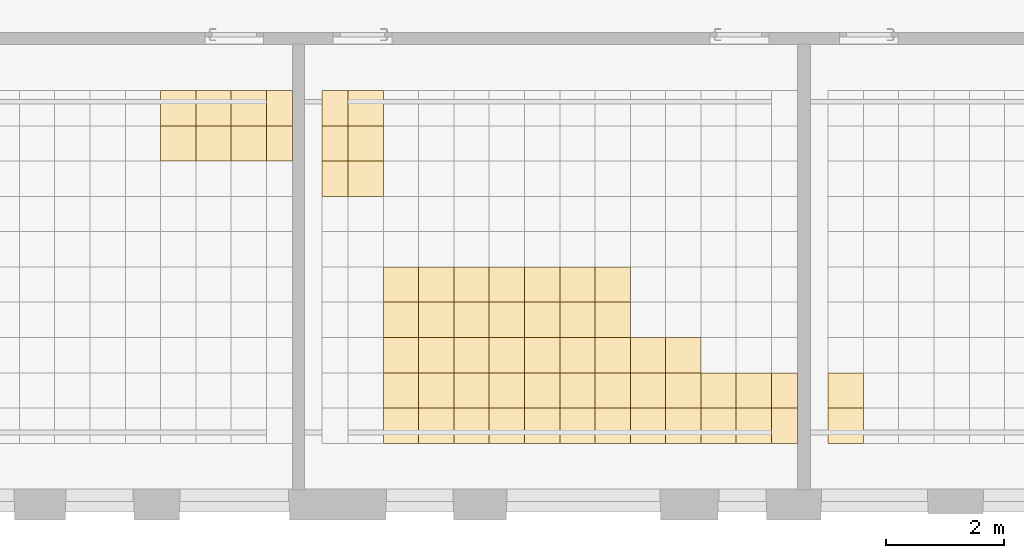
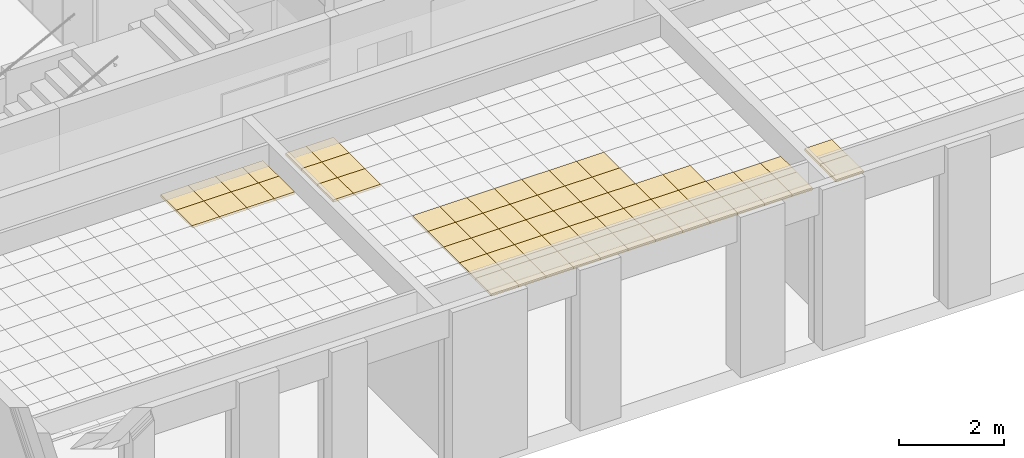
# One storey, part 66 of 79: 63 coverings.
"""IFC2X3 building model written with IfcOpenShell, lengths in millimetres."""

from ifc_helpers import new_model, entity, si_unit, converted_unit, derived_unit, money_unit, direction, frame, origin_with_axes, place, context, subcontext, project, spatial, faceted_brep, material, material_list, type_object, element, save


model = new_model("IFC2X3")

# Units and contexts
model_context = context("Model", 3, precision=0.01, world=origin_with_axes(), true_north=direction((0.0, 1.0)))
body_context = subcontext(model_context, "Body", "Model", "MODEL_VIEW")
ifc_project = project(units=[si_unit("LENGTHUNIT", "METRE", prefix="MILLI"), si_unit("AREAUNIT", "SQUARE_METRE"), si_unit("VOLUMEUNIT", "CUBIC_METRE"), converted_unit("PLANEANGLEUNIT", "DEGREE", entity("IfcPlaneAngleMeasure", 0.0174532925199), si_unit("PLANEANGLEUNIT", "RADIAN"), dimensions=[0, 0, 0, 0, 0, 0, 0]), si_unit("SOLIDANGLEUNIT", "STERADIAN"), money_unit("EUR"), converted_unit("TIMEUNIT", "Year", entity("IfcTimeMeasure", 31556926.0), si_unit("TIMEUNIT", "SECOND"), dimensions=[0, 0, 1, 0, 0, 0, 0]), si_unit("MASSUNIT", "GRAM", prefix="KILO"), si_unit("THERMODYNAMICTEMPERATUREUNIT", "DEGREE_CELSIUS"), si_unit("LUMINOUSINTENSITYUNIT", "LUMEN"), si_unit("ENERGYUNIT", "JOULE", prefix="MEGA"), derived_unit("THERMALCONDUCTANCEUNIT", [(si_unit("POWERUNIT", "WATT"), 1), (si_unit("LENGTHUNIT", "METRE"), -1), (si_unit("THERMODYNAMICTEMPERATUREUNIT", "KELVIN"), -1)]), derived_unit("SPECIFICHEATCAPACITYUNIT", [(si_unit("ENERGYUNIT", "JOULE"), 1), (si_unit("MASSUNIT", "GRAM", prefix="KILO"), -1), (si_unit("THERMODYNAMICTEMPERATUREUNIT", "KELVIN"), -1)]), derived_unit("MASSDENSITYUNIT", [(si_unit("MASSUNIT", "GRAM", prefix="KILO"), 1), (si_unit("VOLUMEUNIT", "CUBIC_METRE"), -1)])], contexts=[model_context])

# Site, building, storey
site_placement = place(None, origin_with_axes())
site = spatial("IfcSite", under=ifc_project, at=site_placement, Name="L.Koidula tn 11b", CompositionType="ELEMENT")
building_placement = place(site_placement, origin_with_axes())
building = spatial("IfcBuilding", under=site, at=building_placement, Name="Rakvere Riigigümnaasium", CompositionType="ELEMENT")
storey_placement = place(building_placement, frame((0.0, 0.0, 3720.0), z_axis=(0.0, 0.0, 1.0), x_axis=(1.0, 0.0, 0.0)))
storey = spatial("IfcBuildingStorey", under=building, at=storey_placement, Name="2.korrus +3,72", CompositionType="ELEMENT", Elevation=3720.0)

# Coverings
ifc_material_1 = material(Name="Karkass")
ifc_material_2 = material(Name="Kipsplaat")
ifc_material_list = material_list([ifc_material_1, ifc_material_2])
covering_type = type_object("IfcCoveringType", Name="SA-LV-Kips-moodul 55", PredefinedType="CEILING")
for number, where, z_axis, x_axis, name in (
    (1, (53009.6766386, 6890.45359412, 2750.0), (0.0, 0.0, 1.0), (1.0, 0.0, 0.0), "L-03"),
    (2, (53009.6766386, 6290.45359412, 2750.0), (0.0, 0.0, 1.0), (1.0, 0.0, 0.0), "L-03"),
):
    element("IfcCovering", number, at=place(storey_placement, frame(where, z_axis=z_axis, x_axis=x_axis)), inside=storey, type_object=covering_type, material=ifc_material_list, Name=name, PredefinedType="CEILING", context=body_context, shape_type="Brep", body=[
        faceted_brep([(600.000452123, 0.0, 12.5), (600.000452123, 0.0, 54.5), (0.0, 0.0, 54.5), (0.0, 0.0, 12.5), (600.000452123, 600.0, 12.5), (600.000452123, 600.0, 54.5), (0.0, 600.0, 54.5), (0.0, 600.0, 12.5)], [[[0, 1, 2, 3]], [[4, 5, 1, 0]], [[2, 1, 5, 6]], [[3, 2, 6, 7]], [[3, 7, 4, 0]], [[7, 6, 5, 4]]]),
        faceted_brep([(0.0, 0.0, 0.0), (600.000452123, 0.0, 0.0), (600.000452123, 0.0, 12.5), (0.0, 0.0, 12.5), (0.0, 600.0, 0.0), (600.000452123, 600.0, 0.0), (600.000452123, 600.0, 12.5), (0.0, 600.0, 12.5)], [[[0, 1, 2, 3]], [[0, 4, 5, 1]], [[1, 5, 6, 2]], [[3, 2, 6, 7]], [[4, 0, 3, 7]], [[5, 4, 7, 6]]]),
    ])
for number, where, z_axis, x_axis, name in (
    (3, (44844.8404937, 11690.4535941, 2750.0), (0.0, 0.0, 1.0), (1.0, 0.0, 0.0), "L-03"),
    (4, (44844.8404937, 10490.4535941, 2750.0), (0.0, 0.0, 1.0), (1.0, 0.0, 0.0), "L-03"),
    (5, (44844.8404937, 11090.4535941, 2750.0), (0.0, 0.0, 1.0), (1.0, 0.0, 0.0), "L-03"),
):
    element("IfcCovering", number, at=place(storey_placement, frame(where, z_axis=z_axis, x_axis=x_axis)), inside=storey, type_object=covering_type, material=ifc_material_list, Name=name, PredefinedType="CEILING", context=body_context, shape_type="Brep", body=[
        faceted_brep([(599.999948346, 0.0, 12.5), (599.999948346, 0.0, 54.5), (0.0, 0.0, 54.5), (0.0, 0.0, 12.5), (599.999948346, 600.0, 12.5), (599.999948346, 600.0, 54.5), (0.0, 600.0, 54.5), (0.0, 600.0, 12.5)], [[[0, 1, 2, 3]], [[4, 5, 1, 0]], [[2, 1, 5, 6]], [[3, 2, 6, 7]], [[3, 7, 4, 0]], [[7, 6, 5, 4]]]),
        faceted_brep([(0.0, 0.0, 0.0), (599.999948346, 0.0, 0.0), (599.999948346, 0.0, 12.5), (0.0, 0.0, 12.5), (0.0, 600.0, 0.0), (599.999948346, 600.0, 0.0), (599.999948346, 600.0, 12.5), (0.0, 600.0, 12.5)], [[[0, 1, 2, 3]], [[0, 4, 5, 1]], [[1, 5, 6, 2]], [[3, 2, 6, 7]], [[4, 0, 3, 7]], [[5, 4, 7, 6]]]),
    ])
for number, where, z_axis, x_axis, name in (
    (6, (44400.0000025, 11090.4535941, 2750.0), (0.0, 0.0, 1.0), (1.0, 0.0, 0.0), "L-03"),
    (7, (44400.0000025, 10490.4535941, 2750.0), (0.0, 0.0, 1.0), (1.0, 0.0, 0.0), "L-03"),
    (8, (44400.0000025, 11690.4535941, 2750.0), (0.0, 0.0, 1.0), (1.0, 0.0, 0.0), "L-03"),
):
    element("IfcCovering", number, at=place(storey_placement, frame(where, z_axis=z_axis, x_axis=x_axis)), inside=storey, type_object=covering_type, material=ifc_material_list, Name=name, PredefinedType="CEILING", context=body_context, shape_type="Brep", body=[
        faceted_brep([(444.84049122, 0.0, 12.5), (444.84049122, 0.0, 54.5), (0.0, 0.0, 54.5), (0.0, 0.0, 12.5), (444.84049122, 600.0, 12.5), (444.84049122, 600.0, 54.5), (0.0, 600.0, 54.5), (0.0, 600.0, 12.5)], [[[0, 1, 2, 3]], [[4, 5, 1, 0]], [[2, 1, 5, 6]], [[3, 2, 6, 7]], [[3, 7, 4, 0]], [[7, 6, 5, 4]]]),
        faceted_brep([(0.0, 0.0, 0.0), (444.84049122, 0.0, 0.0), (444.84049122, 0.0, 12.5), (0.0, 0.0, 12.5), (0.0, 600.0, 0.0), (444.84049122, 600.0, 0.0), (444.84049122, 600.0, 12.5), (0.0, 600.0, 12.5)], [[[0, 1, 2, 3]], [[0, 4, 5, 1]], [[1, 5, 6, 2]], [[3, 2, 6, 7]], [[4, 0, 3, 7]], [[5, 4, 7, 6]]]),
    ])
for number, where, z_axis, x_axis, name in (
    (9, (49044.8402871, 8090.45359412, 2750.0), (0.0, 0.0, 1.0), (1.0, 0.0, 0.0), "L-03"),
    (10, (50244.8402354, 7490.45359412, 2750.0), (0.0, 0.0, 1.0), (1.0, 0.0, 0.0), "L-03"),
):
    element("IfcCovering", number, at=place(storey_placement, frame(where, z_axis=z_axis, x_axis=x_axis)), inside=storey, type_object=covering_type, material=ifc_material_list, Name=name, PredefinedType="CEILING", context=body_context, shape_type="Brep", body=[
        faceted_brep([(600.0, 0.0, 12.5), (600.0, 0.0, 54.5), (0.0, 0.0, 54.5), (0.0, 0.0, 12.5), (600.0, 600.0, 12.5), (600.0, 600.0, 54.5), (0.0, 600.0, 54.5), (0.0, 600.0, 12.5)], [[[0, 1, 2, 3]], [[4, 5, 1, 0]], [[2, 1, 5, 6]], [[3, 2, 6, 7]], [[3, 7, 4, 0]], [[7, 6, 5, 4]]]),
        faceted_brep([(0.0, 0.0, 0.0), (600.0, 0.0, 0.0), (600.0, 0.0, 12.5), (0.0, 0.0, 12.5), (0.0, 600.0, 0.0), (600.0, 600.0, 0.0), (600.0, 600.0, 12.5), (0.0, 600.0, 12.5)], [[[0, 1, 2, 3]], [[0, 4, 5, 1]], [[1, 5, 6, 2]], [[3, 2, 6, 7]], [[4, 0, 3, 7]], [[5, 4, 7, 6]]]),
    ])
for number, where, z_axis, x_axis, name in (
    (11, (50844.8402354, 6890.45359412, 2750.0), (0.0, 0.0, 1.0), (1.0, 0.0, 0.0), "L-03"),
    (12, (50844.8402354, 6290.45359412, 2750.0), (0.0, 0.0, 1.0), (1.0, 0.0, 0.0), "L-03"),
):
    element("IfcCovering", number, at=place(storey_placement, frame(where, z_axis=z_axis, x_axis=x_axis)), inside=storey, type_object=covering_type, material=ifc_material_list, Name=name, PredefinedType="CEILING", context=body_context, shape_type="Brep", body=[
        faceted_brep([(599.999948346, 0.0, 12.5), (599.999948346, 0.0, 54.5), (0.0, 0.0, 54.5), (0.0, 0.0, 12.5), (599.999948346, 600.0, 12.5), (599.999948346, 600.0, 54.5), (0.0, 600.0, 54.5), (0.0, 600.0, 12.5)], [[[0, 1, 2, 3]], [[4, 5, 1, 0]], [[2, 1, 5, 6]], [[3, 2, 6, 7]], [[3, 7, 4, 0]], [[7, 6, 5, 4]]]),
        faceted_brep([(0.0, 0.0, 0.0), (599.999948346, 0.0, 0.0), (599.999948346, 0.0, 12.5), (0.0, 0.0, 12.5), (0.0, 600.0, 0.0), (599.999948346, 600.0, 0.0), (599.999948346, 600.0, 12.5), (0.0, 600.0, 12.5)], [[[0, 1, 2, 3]], [[0, 4, 5, 1]], [[1, 5, 6, 2]], [[3, 2, 6, 7]], [[4, 0, 3, 7]], [[5, 4, 7, 6]]]),
    ])
for number, where, z_axis, x_axis, name in (
    (13, (51444.8401838, 6290.45359412, 2750.0), (0.0, 0.0, 1.0), (1.0, 0.0, 0.0), "L-03"),
    (14, (51444.8401838, 6890.45359412, 2750.0), (0.0, 0.0, 1.0), (1.0, 0.0, 0.0), "L-03"),
    (15, (50244.8402354, 6290.45359412, 2750.0), (0.0, 0.0, 1.0), (1.0, 0.0, 0.0), "L-03"),
    (16, (49044.8402871, 8690.45359412, 2750.0), (0.0, 0.0, 1.0), (1.0, 0.0, 0.0), "L-03"),
    (17, (50244.8402354, 6890.45359412, 2750.0), (0.0, 0.0, 1.0), (1.0, 0.0, 0.0), "L-03"),
    (18, (49044.8402871, 6290.45359412, 2750.0), (0.0, 0.0, 1.0), (1.0, 0.0, 0.0), "L-03"),
    (19, (49044.8402871, 6890.45359412, 2750.0), (0.0, 0.0, 1.0), (1.0, 0.0, 0.0), "L-03"),
):
    element("IfcCovering", number, at=place(storey_placement, frame(where, z_axis=z_axis, x_axis=x_axis)), inside=storey, type_object=covering_type, material=ifc_material_list, Name=name, PredefinedType="CEILING", context=body_context, shape_type="Brep", body=[
        faceted_brep([(600.0, 0.0, 12.5), (600.0, 0.0, 54.5), (0.0, 0.0, 54.5), (0.0, 0.0, 12.5), (600.0, 600.0, 12.5), (600.0, 600.0, 54.5), (0.0, 600.0, 54.5), (0.0, 600.0, 12.5)], [[[0, 1, 2, 3]], [[4, 5, 1, 0]], [[2, 1, 5, 6]], [[3, 2, 6, 7]], [[3, 7, 4, 0]], [[7, 6, 5, 4]]]),
        faceted_brep([(0.0, 0.0, 0.0), (600.0, 0.0, 0.0), (600.0, 0.0, 12.5), (0.0, 0.0, 12.5), (0.0, 600.0, 0.0), (600.0, 600.0, 0.0), (600.0, 600.0, 12.5), (0.0, 600.0, 12.5)], [[[0, 1, 2, 3]], [[0, 4, 5, 1]], [[1, 5, 6, 2]], [[3, 2, 6, 7]], [[4, 0, 3, 7]], [[5, 4, 7, 6]]]),
    ])
for number, where, z_axis, x_axis, name in (
    (20, (47244.8403904, 6290.45359412, 2750.0), (0.0, 0.0, 1.0), (1.0, 0.0, 0.0), "L-03"),
    (21, (49644.8402871, 6290.45359412, 2750.0), (0.0, 0.0, 1.0), (1.0, 0.0, 0.0), "L-03"),
    (22, (47244.8403904, 7490.45359412, 2750.0), (0.0, 0.0, 1.0), (1.0, 0.0, 0.0), "L-03"),
    (23, (47244.8403904, 8090.45359412, 2750.0), (0.0, 0.0, 1.0), (1.0, 0.0, 0.0), "L-03"),
    (24, (49644.8402871, 7490.45359412, 2750.0), (0.0, 0.0, 1.0), (1.0, 0.0, 0.0), "L-03"),
    (25, (47244.8403904, 8690.45359412, 2750.0), (0.0, 0.0, 1.0), (1.0, 0.0, 0.0), "L-03"),
):
    element("IfcCovering", number, at=place(storey_placement, frame(where, z_axis=z_axis, x_axis=x_axis)), inside=storey, type_object=covering_type, material=ifc_material_list, Name=name, PredefinedType="CEILING", context=body_context, shape_type="Brep", body=[
        faceted_brep([(599.999948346, 0.0, 12.5), (599.999948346, 0.0, 54.5), (0.0, 0.0, 54.5), (0.0, 0.0, 12.5), (599.999948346, 600.0, 12.5), (599.999948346, 600.0, 54.5), (0.0, 600.0, 54.5), (0.0, 600.0, 12.5)], [[[0, 1, 2, 3]], [[4, 5, 1, 0]], [[2, 1, 5, 6]], [[3, 2, 6, 7]], [[3, 7, 4, 0]], [[7, 6, 5, 4]]]),
        faceted_brep([(0.0, 0.0, 0.0), (599.999948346, 0.0, 0.0), (599.999948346, 0.0, 12.5), (0.0, 0.0, 12.5), (0.0, 600.0, 0.0), (599.999948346, 600.0, 0.0), (599.999948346, 600.0, 12.5), (0.0, 600.0, 12.5)], [[[0, 1, 2, 3]], [[0, 4, 5, 1]], [[1, 5, 6, 2]], [[3, 2, 6, 7]], [[4, 0, 3, 7]], [[5, 4, 7, 6]]]),
    ])
for number, where, z_axis, x_axis, name in (
    (26, (45444.8404421, 6290.45359412, 2750.0), (0.0, 0.0, 1.0), (1.0, 0.0, 0.0), "L-03"),
    (27, (45444.8404421, 6890.45359412, 2750.0), (0.0, 0.0, 1.0), (1.0, 0.0, 0.0), "L-03"),
    (28, (47844.8403387, 6890.45359412, 2750.0), (0.0, 0.0, 1.0), (1.0, 0.0, 0.0), "L-03"),
):
    element("IfcCovering", number, at=place(storey_placement, frame(where, z_axis=z_axis, x_axis=x_axis)), inside=storey, type_object=covering_type, material=ifc_material_list, Name=name, PredefinedType="CEILING", context=body_context, shape_type="Brep", body=[
        faceted_brep([(600.0, 0.0, 12.5), (600.0, 0.0, 54.5), (0.0, 0.0, 54.5), (0.0, 0.0, 12.5), (600.0, 600.0, 12.5), (600.0, 600.0, 54.5), (0.0, 600.0, 54.5), (0.0, 600.0, 12.5)], [[[0, 1, 2, 3]], [[4, 5, 1, 0]], [[2, 1, 5, 6]], [[3, 2, 6, 7]], [[3, 7, 4, 0]], [[7, 6, 5, 4]]]),
        faceted_brep([(0.0, 0.0, 0.0), (600.0, 0.0, 0.0), (600.0, 0.0, 12.5), (0.0, 0.0, 12.5), (0.0, 600.0, 0.0), (600.0, 600.0, 0.0), (600.0, 600.0, 12.5), (0.0, 600.0, 12.5)], [[[0, 1, 2, 3]], [[0, 4, 5, 1]], [[1, 5, 6, 2]], [[3, 2, 6, 7]], [[4, 0, 3, 7]], [[5, 4, 7, 6]]]),
    ])
covering_1_placement = place(storey_placement, frame((46044.8404421, 8690.45359412, 2750.0), z_axis=(0.0, 0.0, 1.0), x_axis=(1.0, 0.0, 0.0)))
element("IfcCovering", 29, at=covering_1_placement, inside=storey, type_object=covering_type, material=ifc_material_list, Name="L-03", PredefinedType="CEILING", context=body_context, shape_type="Brep", body=[
    faceted_brep([(599.999948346, 0.0, 12.5), (599.999948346, 0.0, 54.5), (0.0, 0.0, 54.5), (0.0, 0.0, 12.5), (599.999948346, 600.0, 12.5), (599.999948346, 600.0, 54.5), (0.0, 600.0, 54.5), (0.0, 600.0, 12.5)], [[[0, 1, 2, 3]], [[4, 5, 1, 0]], [[2, 1, 5, 6]], [[3, 2, 6, 7]], [[3, 7, 4, 0]], [[7, 6, 5, 4]]]),
    faceted_brep([(0.0, 0.0, 0.0), (599.999948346, 0.0, 0.0), (599.999948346, 0.0, 12.5), (0.0, 0.0, 12.5), (0.0, 600.0, 0.0), (599.999948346, 600.0, 0.0), (599.999948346, 600.0, 12.5), (0.0, 600.0, 12.5)], [[[0, 1, 2, 3]], [[0, 4, 5, 1]], [[1, 5, 6, 2]], [[3, 2, 6, 7]], [[4, 0, 3, 7]], [[5, 4, 7, 6]]]),
])
for number, where, z_axis, x_axis, name in (
    (30, (47844.8403387, 6290.45359412, 2750.0), (0.0, 0.0, 1.0), (1.0, 0.0, 0.0), "L-03"),
    (31, (46644.8403904, 8090.45359412, 2750.0), (0.0, 0.0, 1.0), (1.0, 0.0, 0.0), "L-03"),
    (32, (46644.8403904, 7490.45359412, 2750.0), (0.0, 0.0, 1.0), (1.0, 0.0, 0.0), "L-03"),
):
    element("IfcCovering", number, at=place(storey_placement, frame(where, z_axis=z_axis, x_axis=x_axis)), inside=storey, type_object=covering_type, material=ifc_material_list, Name=name, PredefinedType="CEILING", context=body_context, shape_type="Brep", body=[
        faceted_brep([(600.0, 0.0, 12.5), (600.0, 0.0, 54.5), (0.0, 0.0, 54.5), (0.0, 0.0, 12.5), (600.0, 600.0, 12.5), (600.0, 600.0, 54.5), (0.0, 600.0, 54.5), (0.0, 600.0, 12.5)], [[[0, 1, 2, 3]], [[4, 5, 1, 0]], [[2, 1, 5, 6]], [[3, 2, 6, 7]], [[3, 7, 4, 0]], [[7, 6, 5, 4]]]),
        faceted_brep([(0.0, 0.0, 0.0), (600.0, 0.0, 0.0), (600.0, 0.0, 12.5), (0.0, 0.0, 12.5), (0.0, 600.0, 0.0), (600.0, 600.0, 0.0), (600.0, 600.0, 12.5), (0.0, 600.0, 12.5)], [[[0, 1, 2, 3]], [[0, 4, 5, 1]], [[1, 5, 6, 2]], [[3, 2, 6, 7]], [[4, 0, 3, 7]], [[5, 4, 7, 6]]]),
    ])
for number, where, z_axis, x_axis, name in (
    (33, (47244.8403904, 6890.45359412, 2750.0), (0.0, 0.0, 1.0), (1.0, 0.0, 0.0), "L-03"),
    (34, (46044.8404421, 8090.45359412, 2750.0), (0.0, 0.0, 1.0), (1.0, 0.0, 0.0), "L-03"),
):
    element("IfcCovering", number, at=place(storey_placement, frame(where, z_axis=z_axis, x_axis=x_axis)), inside=storey, type_object=covering_type, material=ifc_material_list, Name=name, PredefinedType="CEILING", context=body_context, shape_type="Brep", body=[
        faceted_brep([(599.999948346, 0.0, 12.5), (599.999948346, 0.0, 54.5), (0.0, 0.0, 54.5), (0.0, 0.0, 12.5), (599.999948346, 600.0, 12.5), (599.999948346, 600.0, 54.5), (0.0, 600.0, 54.5), (0.0, 600.0, 12.5)], [[[0, 1, 2, 3]], [[4, 5, 1, 0]], [[2, 1, 5, 6]], [[3, 2, 6, 7]], [[3, 7, 4, 0]], [[7, 6, 5, 4]]]),
        faceted_brep([(0.0, 0.0, 0.0), (599.999948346, 0.0, 0.0), (599.999948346, 0.0, 12.5), (0.0, 0.0, 12.5), (0.0, 600.0, 0.0), (599.999948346, 600.0, 0.0), (599.999948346, 600.0, 12.5), (0.0, 600.0, 12.5)], [[[0, 1, 2, 3]], [[0, 4, 5, 1]], [[1, 5, 6, 2]], [[3, 2, 6, 7]], [[4, 0, 3, 7]], [[5, 4, 7, 6]]]),
    ])
for number, where, z_axis, x_axis, name in (
    (35, (46644.8403904, 6290.45359412, 2750.0), (0.0, 0.0, 1.0), (1.0, 0.0, 0.0), "L-03"),
    (36, (47844.8403387, 8690.45359412, 2750.0), (0.0, 0.0, 1.0), (1.0, 0.0, 0.0), "L-03"),
    (37, (47844.8403387, 8090.45359412, 2750.0), (0.0, 0.0, 1.0), (1.0, 0.0, 0.0), "L-03"),
):
    element("IfcCovering", number, at=place(storey_placement, frame(where, z_axis=z_axis, x_axis=x_axis)), inside=storey, type_object=covering_type, material=ifc_material_list, Name=name, PredefinedType="CEILING", context=body_context, shape_type="Brep", body=[
        faceted_brep([(600.0, 0.0, 12.5), (600.0, 0.0, 54.5), (0.0, 0.0, 54.5), (0.0, 0.0, 12.5), (600.0, 600.0, 12.5), (600.0, 600.0, 54.5), (0.0, 600.0, 54.5), (0.0, 600.0, 12.5)], [[[0, 1, 2, 3]], [[4, 5, 1, 0]], [[2, 1, 5, 6]], [[3, 2, 6, 7]], [[3, 7, 4, 0]], [[7, 6, 5, 4]]]),
        faceted_brep([(0.0, 0.0, 0.0), (600.0, 0.0, 0.0), (600.0, 0.0, 12.5), (0.0, 0.0, 12.5), (0.0, 600.0, 0.0), (600.0, 600.0, 0.0), (600.0, 600.0, 12.5), (0.0, 600.0, 12.5)], [[[0, 1, 2, 3]], [[0, 4, 5, 1]], [[1, 5, 6, 2]], [[3, 2, 6, 7]], [[4, 0, 3, 7]], [[5, 4, 7, 6]]]),
    ])
covering_2_placement = place(storey_placement, frame((49644.8402871, 6890.45359412, 2750.0), z_axis=(0.0, 0.0, 1.0), x_axis=(1.0, 0.0, 0.0)))
element("IfcCovering", 38, at=covering_2_placement, inside=storey, type_object=covering_type, material=ifc_material_list, Name="L-03", PredefinedType="CEILING", context=body_context, shape_type="Brep", body=[
    faceted_brep([(599.999948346, 0.0, 12.5), (599.999948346, 0.0, 54.5), (0.0, 0.0, 54.5), (0.0, 0.0, 12.5), (599.999948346, 600.0, 12.5), (599.999948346, 600.0, 54.5), (0.0, 600.0, 54.5), (0.0, 600.0, 12.5)], [[[0, 1, 2, 3]], [[4, 5, 1, 0]], [[2, 1, 5, 6]], [[3, 2, 6, 7]], [[3, 7, 4, 0]], [[7, 6, 5, 4]]]),
    faceted_brep([(0.0, 0.0, 0.0), (599.999948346, 0.0, 0.0), (599.999948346, 0.0, 12.5), (0.0, 0.0, 12.5), (0.0, 600.0, 0.0), (599.999948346, 600.0, 0.0), (599.999948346, 600.0, 12.5), (0.0, 600.0, 12.5)], [[[0, 1, 2, 3]], [[0, 4, 5, 1]], [[1, 5, 6, 2]], [[3, 2, 6, 7]], [[4, 0, 3, 7]], [[5, 4, 7, 6]]]),
])
covering_3_placement = place(storey_placement, frame((47844.8403387, 7490.45359412, 2750.0), z_axis=(0.0, 0.0, 1.0), x_axis=(1.0, 0.0, 0.0)))
element("IfcCovering", 39, at=covering_3_placement, inside=storey, type_object=covering_type, material=ifc_material_list, Name="L-03", PredefinedType="CEILING", context=body_context, shape_type="Brep", body=[
    faceted_brep([(600.0, 0.0, 12.5), (600.0, 0.0, 54.5), (0.0, 0.0, 54.5), (0.0, 0.0, 12.5), (600.0, 600.0, 12.5), (600.0, 600.0, 54.5), (0.0, 600.0, 54.5), (0.0, 600.0, 12.5)], [[[0, 1, 2, 3]], [[4, 5, 1, 0]], [[2, 1, 5, 6]], [[3, 2, 6, 7]], [[3, 7, 4, 0]], [[7, 6, 5, 4]]]),
    faceted_brep([(0.0, 0.0, 0.0), (600.0, 0.0, 0.0), (600.0, 0.0, 12.5), (0.0, 0.0, 12.5), (0.0, 600.0, 0.0), (600.0, 600.0, 0.0), (600.0, 600.0, 12.5), (0.0, 600.0, 12.5)], [[[0, 1, 2, 3]], [[0, 4, 5, 1]], [[1, 5, 6, 2]], [[3, 2, 6, 7]], [[4, 0, 3, 7]], [[5, 4, 7, 6]]]),
])
for number, where, z_axis, x_axis, name in (
    (40, (48444.8403387, 6890.45359412, 2750.0), (0.0, 0.0, 1.0), (1.0, 0.0, 0.0), "L-03"),
    (41, (48444.8403387, 6290.45359412, 2750.0), (0.0, 0.0, 1.0), (1.0, 0.0, 0.0), "L-03"),
):
    element("IfcCovering", number, at=place(storey_placement, frame(where, z_axis=z_axis, x_axis=x_axis)), inside=storey, type_object=covering_type, material=ifc_material_list, Name=name, PredefinedType="CEILING", context=body_context, shape_type="Brep", body=[
        faceted_brep([(599.999948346, 0.0, 12.5), (599.999948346, 0.0, 54.5), (0.0, 0.0, 54.5), (0.0, 0.0, 12.5), (599.999948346, 600.0, 12.5), (599.999948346, 600.0, 54.5), (0.0, 600.0, 54.5), (0.0, 600.0, 12.5)], [[[0, 1, 2, 3]], [[4, 5, 1, 0]], [[2, 1, 5, 6]], [[3, 2, 6, 7]], [[3, 7, 4, 0]], [[7, 6, 5, 4]]]),
        faceted_brep([(0.0, 0.0, 0.0), (599.999948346, 0.0, 0.0), (599.999948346, 0.0, 12.5), (0.0, 0.0, 12.5), (0.0, 600.0, 0.0), (599.999948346, 600.0, 0.0), (599.999948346, 600.0, 12.5), (0.0, 600.0, 12.5)], [[[0, 1, 2, 3]], [[0, 4, 5, 1]], [[1, 5, 6, 2]], [[3, 2, 6, 7]], [[4, 0, 3, 7]], [[5, 4, 7, 6]]]),
    ])
for number, where, z_axis, x_axis, name in (
    (42, (46644.8403904, 6890.45359412, 2750.0), (0.0, 0.0, 1.0), (1.0, 0.0, 0.0), "L-03"),
    (43, (46644.8403904, 8690.45359412, 2750.0), (0.0, 0.0, 1.0), (1.0, 0.0, 0.0), "L-03"),
    (44, (49044.8402871, 7490.45359412, 2750.0), (0.0, 0.0, 1.0), (1.0, 0.0, 0.0), "L-03"),
):
    element("IfcCovering", number, at=place(storey_placement, frame(where, z_axis=z_axis, x_axis=x_axis)), inside=storey, type_object=covering_type, material=ifc_material_list, Name=name, PredefinedType="CEILING", context=body_context, shape_type="Brep", body=[
        faceted_brep([(600.0, 0.0, 12.5), (600.0, 0.0, 54.5), (0.0, 0.0, 54.5), (0.0, 0.0, 12.5), (600.0, 600.0, 12.5), (600.0, 600.0, 54.5), (0.0, 600.0, 54.5), (0.0, 600.0, 12.5)], [[[0, 1, 2, 3]], [[4, 5, 1, 0]], [[2, 1, 5, 6]], [[3, 2, 6, 7]], [[3, 7, 4, 0]], [[7, 6, 5, 4]]]),
        faceted_brep([(0.0, 0.0, 0.0), (600.0, 0.0, 0.0), (600.0, 0.0, 12.5), (0.0, 0.0, 12.5), (0.0, 600.0, 0.0), (600.0, 600.0, 0.0), (600.0, 600.0, 12.5), (0.0, 600.0, 12.5)], [[[0, 1, 2, 3]], [[0, 4, 5, 1]], [[1, 5, 6, 2]], [[3, 2, 6, 7]], [[4, 0, 3, 7]], [[5, 4, 7, 6]]]),
    ])
for number, where, z_axis, x_axis, name in (
    (45, (48444.8403387, 8090.45359412, 2750.0), (0.0, 0.0, 1.0), (1.0, 0.0, 0.0), "L-03"),
    (46, (46044.8404421, 6890.45359412, 2750.0), (0.0, 0.0, 1.0), (1.0, 0.0, 0.0), "L-03"),
    (47, (46044.8404421, 6290.45359412, 2750.0), (0.0, 0.0, 1.0), (1.0, 0.0, 0.0), "L-03"),
    (48, (46044.8404421, 7490.45359412, 2750.0), (0.0, 0.0, 1.0), (1.0, 0.0, 0.0), "L-03"),
):
    element("IfcCovering", number, at=place(storey_placement, frame(where, z_axis=z_axis, x_axis=x_axis)), inside=storey, type_object=covering_type, material=ifc_material_list, Name=name, PredefinedType="CEILING", context=body_context, shape_type="Brep", body=[
        faceted_brep([(599.999948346, 0.0, 12.5), (599.999948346, 0.0, 54.5), (0.0, 0.0, 54.5), (0.0, 0.0, 12.5), (599.999948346, 600.0, 12.5), (599.999948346, 600.0, 54.5), (0.0, 600.0, 54.5), (0.0, 600.0, 12.5)], [[[0, 1, 2, 3]], [[4, 5, 1, 0]], [[2, 1, 5, 6]], [[3, 2, 6, 7]], [[3, 7, 4, 0]], [[7, 6, 5, 4]]]),
        faceted_brep([(0.0, 0.0, 0.0), (599.999948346, 0.0, 0.0), (599.999948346, 0.0, 12.5), (0.0, 0.0, 12.5), (0.0, 600.0, 0.0), (599.999948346, 600.0, 0.0), (599.999948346, 600.0, 12.5), (0.0, 600.0, 12.5)], [[[0, 1, 2, 3]], [[0, 4, 5, 1]], [[1, 5, 6, 2]], [[3, 2, 6, 7]], [[4, 0, 3, 7]], [[5, 4, 7, 6]]]),
    ])
covering_4_placement = place(storey_placement, frame((45444.8404421, 8690.45359412, 2750.0), z_axis=(0.0, 0.0, 1.0), x_axis=(1.0, 0.0, 0.0)))
element("IfcCovering", 49, at=covering_4_placement, inside=storey, type_object=covering_type, material=ifc_material_list, Name="L-03", PredefinedType="CEILING", context=body_context, shape_type="Brep", body=[
    faceted_brep([(600.0, 0.0, 12.5), (600.0, 0.0, 54.5), (0.0, 0.0, 54.5), (0.0, 0.0, 12.5), (600.0, 600.0, 12.5), (600.0, 600.0, 54.5), (0.0, 600.0, 54.5), (0.0, 600.0, 12.5)], [[[0, 1, 2, 3]], [[4, 5, 1, 0]], [[2, 1, 5, 6]], [[3, 2, 6, 7]], [[3, 7, 4, 0]], [[7, 6, 5, 4]]]),
    faceted_brep([(0.0, 0.0, 0.0), (600.0, 0.0, 0.0), (600.0, 0.0, 12.5), (0.0, 0.0, 12.5), (0.0, 600.0, 0.0), (600.0, 600.0, 0.0), (600.0, 600.0, 12.5), (0.0, 600.0, 12.5)], [[[0, 1, 2, 3]], [[0, 4, 5, 1]], [[1, 5, 6, 2]], [[3, 2, 6, 7]], [[4, 0, 3, 7]], [[5, 4, 7, 6]]]),
])
covering_5_placement = place(storey_placement, frame((48444.8403387, 8690.45359412, 2750.0), z_axis=(0.0, 0.0, 1.0), x_axis=(1.0, 0.0, 0.0)))
element("IfcCovering", 50, at=covering_5_placement, inside=storey, type_object=covering_type, material=ifc_material_list, Name="L-03", PredefinedType="CEILING", context=body_context, shape_type="Brep", body=[
    faceted_brep([(599.999948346, 0.0, 12.5), (599.999948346, 0.0, 54.5), (0.0, 0.0, 54.5), (0.0, 0.0, 12.5), (599.999948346, 600.0, 12.5), (599.999948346, 600.0, 54.5), (0.0, 600.0, 54.5), (0.0, 600.0, 12.5)], [[[0, 1, 2, 3]], [[4, 5, 1, 0]], [[2, 1, 5, 6]], [[3, 2, 6, 7]], [[3, 7, 4, 0]], [[7, 6, 5, 4]]]),
    faceted_brep([(0.0, 0.0, 0.0), (599.999948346, 0.0, 0.0), (599.999948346, 0.0, 12.5), (0.0, 0.0, 12.5), (0.0, 600.0, 0.0), (599.999948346, 600.0, 0.0), (599.999948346, 600.0, 12.5), (0.0, 600.0, 12.5)], [[[0, 1, 2, 3]], [[0, 4, 5, 1]], [[1, 5, 6, 2]], [[3, 2, 6, 7]], [[4, 0, 3, 7]], [[5, 4, 7, 6]]]),
])
covering_6_placement = place(storey_placement, frame((45444.8404421, 7490.45359412, 2750.0), z_axis=(0.0, 0.0, 1.0), x_axis=(1.0, 0.0, 0.0)))
element("IfcCovering", 51, at=covering_6_placement, inside=storey, type_object=covering_type, material=ifc_material_list, Name="L-03", PredefinedType="CEILING", context=body_context, shape_type="Brep", body=[
    faceted_brep([(600.0, 0.0, 12.5), (600.0, 0.0, 54.5), (0.0, 0.0, 54.5), (0.0, 0.0, 12.5), (600.0, 600.0, 12.5), (600.0, 600.0, 54.5), (0.0, 600.0, 54.5), (0.0, 600.0, 12.5)], [[[0, 1, 2, 3]], [[4, 5, 1, 0]], [[2, 1, 5, 6]], [[3, 2, 6, 7]], [[3, 7, 4, 0]], [[7, 6, 5, 4]]]),
    faceted_brep([(0.0, 0.0, 0.0), (600.0, 0.0, 0.0), (600.0, 0.0, 12.5), (0.0, 0.0, 12.5), (0.0, 600.0, 0.0), (600.0, 600.0, 0.0), (600.0, 600.0, 12.5), (0.0, 600.0, 12.5)], [[[0, 1, 2, 3]], [[0, 4, 5, 1]], [[1, 5, 6, 2]], [[3, 2, 6, 7]], [[4, 0, 3, 7]], [[5, 4, 7, 6]]]),
])
covering_7_placement = place(storey_placement, frame((48444.8403387, 7490.45359412, 2750.0), z_axis=(0.0, 0.0, 1.0), x_axis=(1.0, 0.0, 0.0)))
element("IfcCovering", 52, at=covering_7_placement, inside=storey, type_object=covering_type, material=ifc_material_list, Name="L-03", PredefinedType="CEILING", context=body_context, shape_type="Brep", body=[
    faceted_brep([(599.999948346, 0.0, 12.5), (599.999948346, 0.0, 54.5), (0.0, 0.0, 54.5), (0.0, 0.0, 12.5), (599.999948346, 600.0, 12.5), (599.999948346, 600.0, 54.5), (0.0, 600.0, 54.5), (0.0, 600.0, 12.5)], [[[0, 1, 2, 3]], [[4, 5, 1, 0]], [[2, 1, 5, 6]], [[3, 2, 6, 7]], [[3, 7, 4, 0]], [[7, 6, 5, 4]]]),
    faceted_brep([(0.0, 0.0, 0.0), (599.999948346, 0.0, 0.0), (599.999948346, 0.0, 12.5), (0.0, 0.0, 12.5), (0.0, 600.0, 0.0), (599.999948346, 600.0, 0.0), (599.999948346, 600.0, 12.5), (0.0, 600.0, 12.5)], [[[0, 1, 2, 3]], [[0, 4, 5, 1]], [[1, 5, 6, 2]], [[3, 2, 6, 7]], [[4, 0, 3, 7]], [[5, 4, 7, 6]]]),
])
covering_8_placement = place(storey_placement, frame((45444.8404421, 8090.45359412, 2750.0), z_axis=(0.0, 0.0, 1.0), x_axis=(1.0, 0.0, 0.0)))
element("IfcCovering", 53, at=covering_8_placement, inside=storey, type_object=covering_type, material=ifc_material_list, Name="L-03", PredefinedType="CEILING", context=body_context, shape_type="Brep", body=[
    faceted_brep([(600.0, 0.0, 12.5), (600.0, 0.0, 54.5), (0.0, 0.0, 54.5), (0.0, 0.0, 12.5), (600.0, 600.0, 12.5), (600.0, 600.0, 54.5), (0.0, 600.0, 54.5), (0.0, 600.0, 12.5)], [[[0, 1, 2, 3]], [[4, 5, 1, 0]], [[2, 1, 5, 6]], [[3, 2, 6, 7]], [[3, 7, 4, 0]], [[7, 6, 5, 4]]]),
    faceted_brep([(0.0, 0.0, 0.0), (600.0, 0.0, 0.0), (600.0, 0.0, 12.5), (0.0, 0.0, 12.5), (0.0, 600.0, 0.0), (600.0, 600.0, 0.0), (600.0, 600.0, 12.5), (0.0, 600.0, 12.5)], [[[0, 1, 2, 3]], [[0, 4, 5, 1]], [[1, 5, 6, 2]], [[3, 2, 6, 7]], [[4, 0, 3, 7]], [[5, 4, 7, 6]]]),
])
for number, where, z_axis, x_axis, name in (
    (54, (52044.8401838, 6890.45359412, 2750.0), (0.0, 0.0, 1.0), (1.0, 0.0, 0.0), "L-03"),
    (55, (52044.8401838, 6290.45359412, 2750.0), (0.0, 0.0, 1.0), (1.0, 0.0, 0.0), "L-03"),
):
    element("IfcCovering", number, at=place(storey_placement, frame(where, z_axis=z_axis, x_axis=x_axis)), inside=storey, type_object=covering_type, material=ifc_material_list, Name=name, PredefinedType="CEILING", context=body_context, shape_type="Brep", body=[
        faceted_brep([(445.136454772, 0.0, 12.5), (445.136454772, 0.0, 54.5), (0.0, 0.0, 54.5), (0.0, 0.0, 12.5), (445.136454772, 600.0, 12.5), (445.136454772, 600.0, 54.5), (0.0, 600.0, 54.5), (0.0, 600.0, 12.5)], [[[0, 1, 2, 3]], [[4, 5, 1, 0]], [[2, 1, 5, 6]], [[3, 2, 6, 7]], [[3, 7, 4, 0]], [[7, 6, 5, 4]]]),
        faceted_brep([(0.0, 0.0, 0.0), (445.136454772, 0.0, 0.0), (445.136454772, 0.0, 12.5), (0.0, 0.0, 12.5), (0.0, 600.0, 0.0), (445.136454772, 600.0, 0.0), (445.136454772, 600.0, 12.5), (0.0, 600.0, 12.5)], [[[0, 1, 2, 3]], [[0, 4, 5, 1]], [[1, 5, 6, 2]], [[3, 2, 6, 7]], [[4, 0, 3, 7]], [[5, 4, 7, 6]]]),
    ])
for number, where, z_axis, x_axis, name in (
    (56, (41655.1637613, 11690.4535941, 2750.0), (0.0, 0.0, 1.0), (1.0, 0.0, 0.0), "L-03"),
    (57, (42855.1637097, 11090.4535941, 2750.0), (0.0, 0.0, 1.0), (1.0, 0.0, 0.0), "L-03"),
    (58, (42855.1637097, 11690.4535941, 2750.0), (0.0, 0.0, 1.0), (1.0, 0.0, 0.0), "L-03"),
):
    element("IfcCovering", number, at=place(storey_placement, frame(where, z_axis=z_axis, x_axis=x_axis)), inside=storey, type_object=covering_type, material=ifc_material_list, Name=name, PredefinedType="CEILING", context=body_context, shape_type="Brep", body=[
        faceted_brep([(600.0, 0.0, 12.5), (600.0, 0.0, 54.5), (0.0, 0.0, 54.5), (0.0, 0.0, 12.5), (600.0, 600.0, 12.5), (600.0, 600.0, 54.5), (0.0, 600.0, 54.5), (0.0, 600.0, 12.5)], [[[0, 1, 2, 3]], [[4, 5, 1, 0]], [[2, 1, 5, 6]], [[3, 2, 6, 7]], [[3, 7, 4, 0]], [[7, 6, 5, 4]]]),
        faceted_brep([(0.0, 0.0, 0.0), (600.0, 0.0, 0.0), (600.0, 0.0, 12.5), (0.0, 0.0, 12.5), (0.0, 600.0, 0.0), (600.0, 600.0, 0.0), (600.0, 600.0, 12.5), (0.0, 600.0, 12.5)], [[[0, 1, 2, 3]], [[0, 4, 5, 1]], [[1, 5, 6, 2]], [[3, 2, 6, 7]], [[4, 0, 3, 7]], [[5, 4, 7, 6]]]),
    ])
for number, where, z_axis, x_axis, name in (
    (59, (42255.1637613, 11690.4535941, 2750.0), (0.0, 0.0, 1.0), (1.0, 0.0, 0.0), "L-03"),
    (60, (42255.1637613, 11090.4535941, 2750.0), (0.0, 0.0, 1.0), (1.0, 0.0, 0.0), "L-03"),
):
    element("IfcCovering", number, at=place(storey_placement, frame(where, z_axis=z_axis, x_axis=x_axis)), inside=storey, type_object=covering_type, material=ifc_material_list, Name=name, PredefinedType="CEILING", context=body_context, shape_type="Brep", body=[
        faceted_brep([(599.999948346, 0.0, 12.5), (599.999948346, 0.0, 54.5), (0.0, 0.0, 54.5), (0.0, 0.0, 12.5), (599.999948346, 600.0, 12.5), (599.999948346, 600.0, 54.5), (0.0, 600.0, 54.5), (0.0, 600.0, 12.5)], [[[0, 1, 2, 3]], [[4, 5, 1, 0]], [[2, 1, 5, 6]], [[3, 2, 6, 7]], [[3, 7, 4, 0]], [[7, 6, 5, 4]]]),
        faceted_brep([(0.0, 0.0, 0.0), (599.999948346, 0.0, 0.0), (599.999948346, 0.0, 12.5), (0.0, 0.0, 12.5), (0.0, 600.0, 0.0), (599.999948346, 600.0, 0.0), (599.999948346, 600.0, 12.5), (0.0, 600.0, 12.5)], [[[0, 1, 2, 3]], [[0, 4, 5, 1]], [[1, 5, 6, 2]], [[3, 2, 6, 7]], [[4, 0, 3, 7]], [[5, 4, 7, 6]]]),
    ])
covering_9_placement = place(storey_placement, frame((41655.1637613, 11090.4535941, 2750.0), z_axis=(0.0, 0.0, 1.0), x_axis=(1.0, 0.0, 0.0)))
element("IfcCovering", 61, at=covering_9_placement, inside=storey, type_object=covering_type, material=ifc_material_list, Name="L-03", PredefinedType="CEILING", context=body_context, shape_type="Brep", body=[
    faceted_brep([(600.0, 0.0, 12.5), (600.0, 0.0, 54.5), (0.0, 0.0, 54.5), (0.0, 0.0, 12.5), (600.0, 600.0, 12.5), (600.0, 600.0, 54.5), (0.0, 600.0, 54.5), (0.0, 600.0, 12.5)], [[[0, 1, 2, 3]], [[4, 5, 1, 0]], [[2, 1, 5, 6]], [[3, 2, 6, 7]], [[3, 7, 4, 0]], [[7, 6, 5, 4]]]),
    faceted_brep([(0.0, 0.0, 0.0), (600.0, 0.0, 0.0), (600.0, 0.0, 12.5), (0.0, 0.0, 12.5), (0.0, 600.0, 0.0), (600.0, 600.0, 0.0), (600.0, 600.0, 12.5), (0.0, 600.0, 12.5)], [[[0, 1, 2, 3]], [[0, 4, 5, 1]], [[1, 5, 6, 2]], [[3, 2, 6, 7]], [[4, 0, 3, 7]], [[5, 4, 7, 6]]]),
])
for number, where, z_axis, x_axis, name in (
    (62, (43455.1637097, 11690.4535941, 2750.0), (0.0, 0.0, 1.0), (1.0, 0.0, 0.0), "L-03"),
    (63, (43455.1637097, 11090.4535941, 2750.0), (0.0, 0.0, 1.0), (1.0, 0.0, 0.0), "L-03"),
):
    element("IfcCovering", number, at=place(storey_placement, frame(where, z_axis=z_axis, x_axis=x_axis)), inside=storey, type_object=covering_type, material=ifc_material_list, Name=name, PredefinedType="CEILING", context=body_context, shape_type="Brep", body=[
        faceted_brep([(445.136454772, 0.0, 12.5), (445.136454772, 0.0, 54.5), (0.0, 0.0, 54.5), (0.0, 0.0, 12.5), (445.136454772, 600.0, 12.5), (445.136454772, 600.0, 54.5), (0.0, 600.0, 54.5), (0.0, 600.0, 12.5)], [[[0, 1, 2, 3]], [[4, 5, 1, 0]], [[2, 1, 5, 6]], [[3, 2, 6, 7]], [[3, 7, 4, 0]], [[7, 6, 5, 4]]]),
        faceted_brep([(0.0, 0.0, 0.0), (445.136454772, 0.0, 0.0), (445.136454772, 0.0, 12.5), (0.0, 0.0, 12.5), (0.0, 600.0, 0.0), (445.136454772, 600.0, 0.0), (445.136454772, 600.0, 12.5), (0.0, 600.0, 12.5)], [[[0, 1, 2, 3]], [[0, 4, 5, 1]], [[1, 5, 6, 2]], [[3, 2, 6, 7]], [[4, 0, 3, 7]], [[5, 4, 7, 6]]]),
    ])

save(model, "model.ifc")
